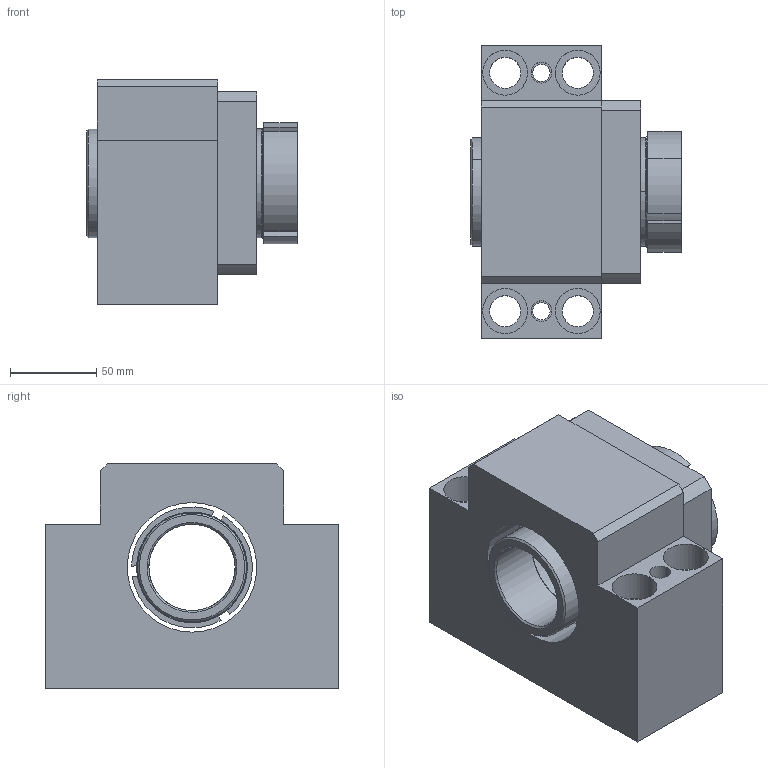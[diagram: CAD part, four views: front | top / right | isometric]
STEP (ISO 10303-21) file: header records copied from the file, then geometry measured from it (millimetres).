
FILE_DESCRIPTION (( 'STEP AP203' ), '1' );
FILE_NAME ('BK50-TAC.STEP', '2018-03-14T09:24:14', ( 'User' ), ( 'China' ), 'SwSTEP 2.0', 'SolidWorks 2016', '' );
FILE_SCHEMA (( 'CONFIG_CONTROL_DESIGN' ));
Length unit declared in the file: millimetre
Products named in the file (5): BK50-TAC.sldasm-Part-3; BK50-TAC.sldasm-Part-4; BK50-TAC; BK50-TAC.sldasm-Part-1; BK50-TAC.sldasm-Part-2
Assembly tree (5 placements, depth 2):
  BK50-TAC
    BK50-TAC.sldasm-Part-1
    BK50-TAC.sldasm-Part-2  x2
    BK50-TAC.sldasm-Part-3
    BK50-TAC.sldasm-Part-4
Bounding box: 122 x 170 x 130 mm (x, y, z)
Volume: 1094805.5 mm3; surface area: 194730.7 mm2
Topology: 5 solids, 5 shells, 145 faces, 345 edges, 218 vertices
Faces by surface type: cylinder 76, plane 45, cone 24
Entity records: 4436 total; most frequent: DIRECTION 745, CARTESIAN_POINT 650, ORIENTED_EDGE 618, EDGE_CURVE 309, AXIS2_PLACEMENT_3D 297, VERTEX_POINT 202, EDGE_LOOP 175, CIRCLE 158
